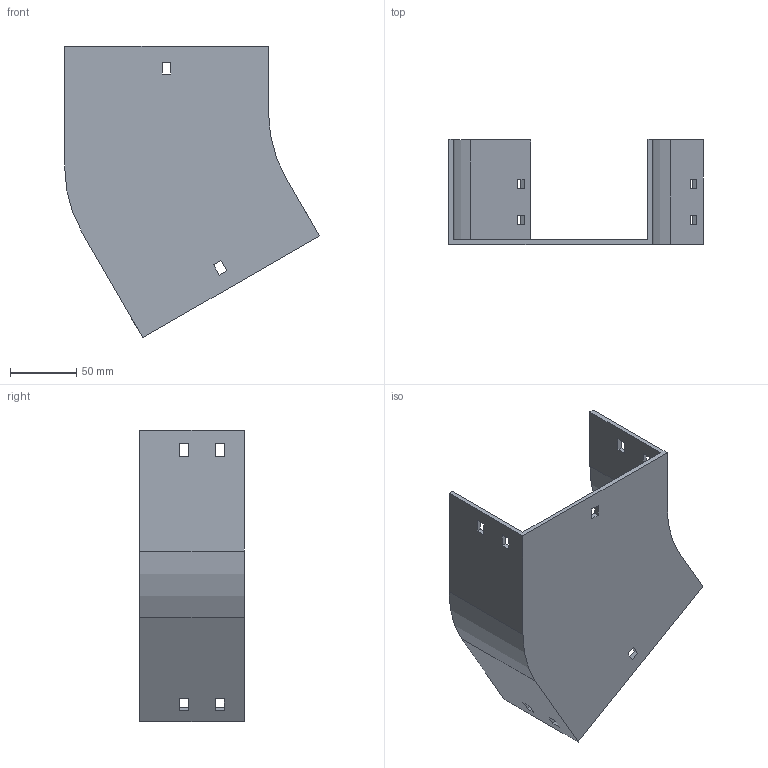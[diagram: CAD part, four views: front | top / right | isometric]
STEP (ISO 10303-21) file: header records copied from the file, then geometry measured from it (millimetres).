
FILE_DESCRIPTION (( 'STEP AP214' ), '1' );
FILE_NAME ('12B1C150.step', '2025-02-21T09:35:28', ( '' ), ( '' ), 'SwSTEP 2.0', 'SolidWorks 2023', '' );
FILE_SCHEMA (( 'AUTOMOTIVE_DESIGN' ));
Length unit declared in the file: millimetre
Products named in the file (1): 12B1C150
Bounding box: 192.4 x 79 x 220.3 mm (x, y, z)
Volume: 204987.1 mm3; surface area: 121794.9 mm2
Topology: 1 solids, 1 shells, 58 faces, 168 edges, 112 vertices
Faces by surface type: plane 54, cylinder 4
Entity records: 1943 total; most frequent: CARTESIAN_POINT 339, ORIENTED_EDGE 336, DIRECTION 294, EDGE_CURVE 168, LINE 160, VECTOR 160, VERTEX_POINT 112, EDGE_LOOP 78
